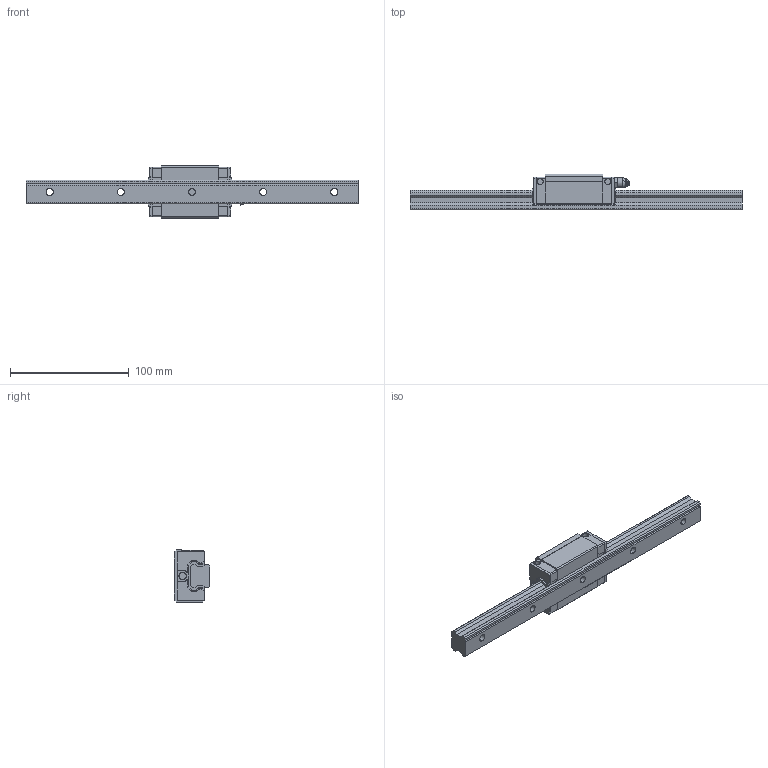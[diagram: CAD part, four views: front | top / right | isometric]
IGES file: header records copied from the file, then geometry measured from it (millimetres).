
Start section: SolidWorks IGES file using analytic representation for surfaces
Global section: file name: C:\Users\tsuch\OneDrive\デスクトップ\EG20関連修正(3D)\EGH20.IGS; native system: SolidWorks 2019; preprocessor: SolidWorks 2019; author: tsuch; date: 210625.172158; units: millimetre
Bounding box: 280 x 30 x 44 mm (x, y, z)
Surface area: 43520.8 mm2 (no closed solid volume)
Topology: 0 solids, 0 shells, 499 faces, 4877 edges, 4869 vertices
Faces by surface type: bspline 330, revolution 169
